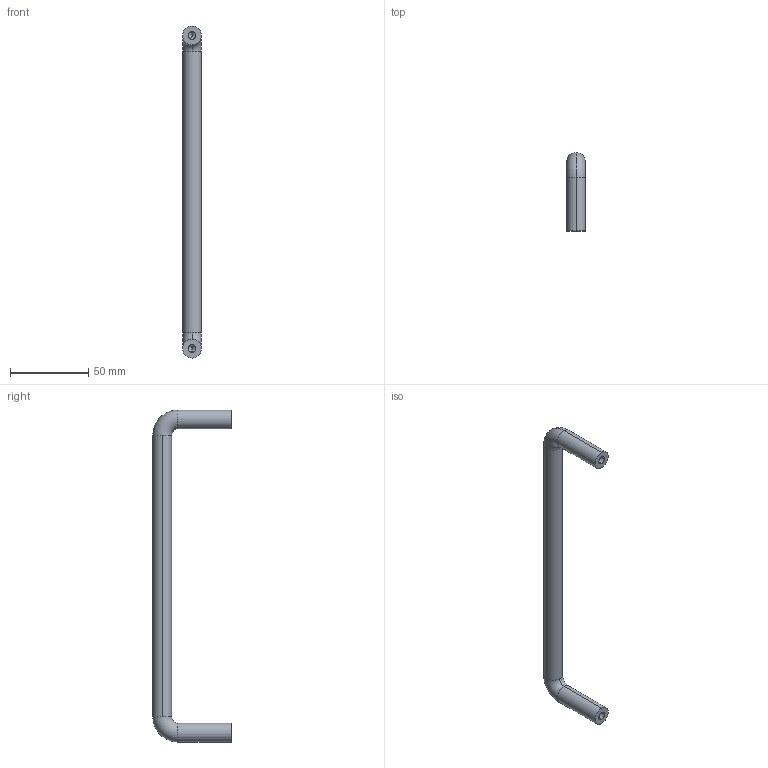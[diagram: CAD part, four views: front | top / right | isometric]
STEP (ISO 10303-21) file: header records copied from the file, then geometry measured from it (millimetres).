
FILE_DESCRIPTION (( 'STEP AP203' ), '1' );
FILE_NAME ('E03-122060.STEP', '2023-04-20T07:42:27', ( '' ), ( '' ), 'SwSTEP 2.0', 'SolidWorks 2021', '' );
FILE_SCHEMA (( 'CONFIG_CONTROL_DESIGN' ));
Length unit declared in the file: millimetre
Products named in the file (1): E03-122060
Bounding box: 12 x 50 x 212 mm (x, y, z)
Volume: 30992.5 mm3; surface area: 11237.7 mm2
Topology: 1 solids, 1 shells, 20 faces, 46 edges, 26 vertices
Faces by surface type: cylinder 10, torus 4, cone 4, plane 2
Entity records: 623 total; most frequent: DIRECTION 112, CARTESIAN_POINT 89, ORIENTED_EDGE 84, AXIS2_PLACEMENT_3D 49, EDGE_CURVE 42, CIRCLE 28, VERTEX_POINT 26, EDGE_LOOP 22
